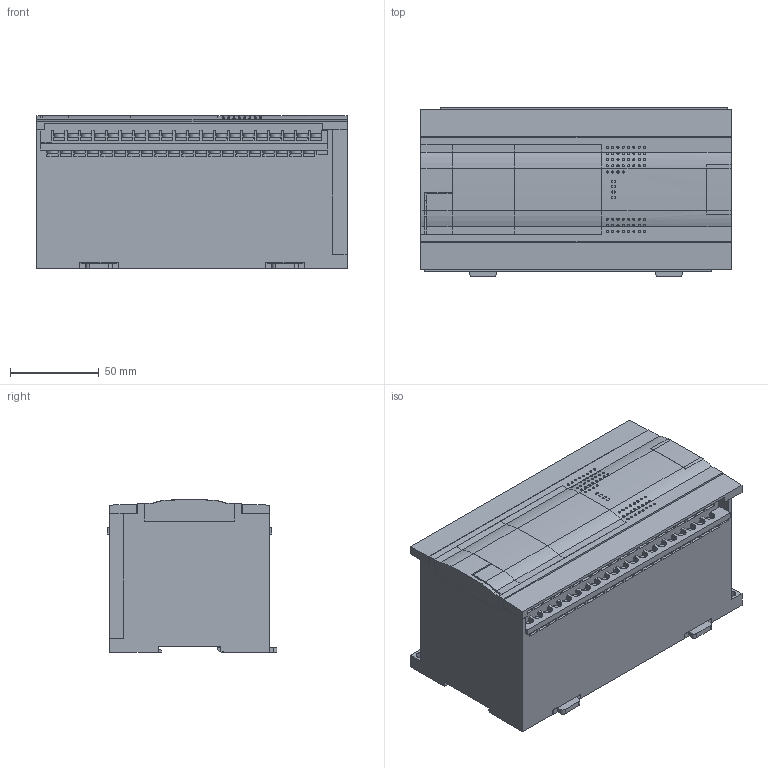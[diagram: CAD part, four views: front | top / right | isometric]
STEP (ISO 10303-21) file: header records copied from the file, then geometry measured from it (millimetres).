
FILE_DESCRIPTION(/* description */ (''),/* implementation_level */ '2;1');
FILE_NAME(/* name */ 'FX3G_60MT_ES_x_t.stp',/* time_stamp */ '2011-02-23T10:28:48+09:00',/* author */ (''),/* organization */ (''),/* preprocessor_version */ 'ST-DEVELOPER v11',/* originating_system */ 'UGS - NX 5.0',/* authorisation */ '');
FILE_SCHEMA (('CONFIG_CONTROL_DESIGN'));
Length unit declared in the file: millimetre
Products named in the file (14): COVER_60MT_ES1_id54_x_t; COVER_60MT_ES2_id49_x_t; COVER_60MT_ES_1_id65_x_t; COVER_60MT_ES_1_id60_x_t; COVER_60MT_ES_id41_x_t; COVER_60MT_ES_id36_x_t; COVER_60MT_ES_id31_x_t; Add_FX3G_60MT_ES_id26_x_t; COVER_60MT_ES_2_id21_x_t; COVER_60MT_ES_2_id16_x_t; SLIDER_40MT_ES_1_id11_x_t; SLIDER_40MT_ES_2_id6_x_t; COVER_60MT_ES_id46_x_t; FX3G_60MT_ES_x_t
Assembly tree (13 placements, depth 3):
  FX3G_60MT_ES_x_t
    SLIDER_40MT_ES_2_id6_x_t
    SLIDER_40MT_ES_1_id11_x_t
    COVER_60MT_ES_2_id16_x_t
    COVER_60MT_ES_2_id21_x_t
    Add_FX3G_60MT_ES_id26_x_t
    COVER_60MT_ES_id31_x_t
    COVER_60MT_ES_id36_x_t
    COVER_60MT_ES_id41_x_t
    COVER_60MT_ES_id46_x_t
      COVER_60MT_ES2_id49_x_t
      COVER_60MT_ES1_id54_x_t
    COVER_60MT_ES_1_id60_x_t
    COVER_60MT_ES_1_id65_x_t
Bounding box: 175 x 95.8 x 86 mm (x, y, z)
Volume: 1194680.1 mm3; surface area: 138221.3 mm2
Topology: 12 solids, 12 shells, 1525 faces, 4095 edges, 2824 vertices
Faces by surface type: plane 1237, cylinder 288
Full cylindrical faces by diameter (mm): 1.2 x60, 4.5 x2, 6 x80
Entity records: 53874 total; most frequent: CARTESIAN_POINT 14205, ORIENTED_EDGE 7906, DIRECTION 7373, EDGE_CURVE 3953, LINE 3141, VECTOR 3141, VERTEX_POINT 2824, AXIS2_PLACEMENT_3D 2116
